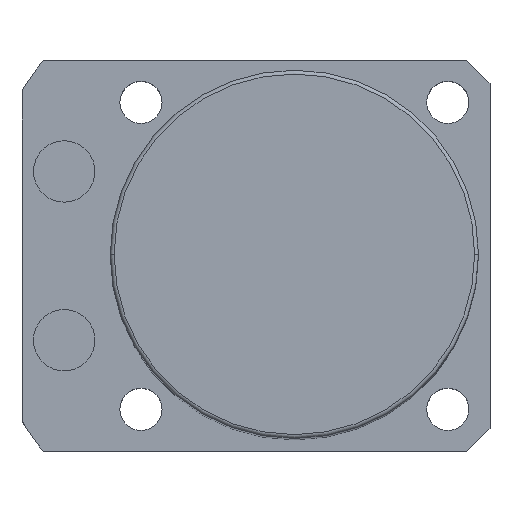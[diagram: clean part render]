
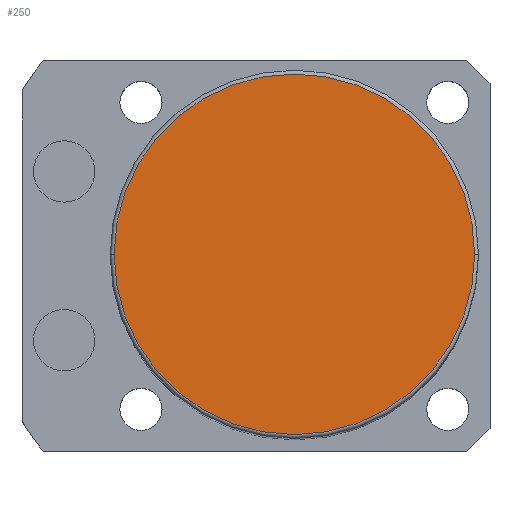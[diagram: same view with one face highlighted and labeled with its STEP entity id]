
A CAD part, top view. The second image highlights one B-rep face of the part: STEP entity #250.
In plain terms, the highlighted planar face has unit normal (0, 0, 1).
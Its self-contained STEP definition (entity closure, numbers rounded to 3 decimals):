
#13 = CARTESIAN_POINT ( 'NONE',  ( 0., 0., 126. ) ) ;
#86 = FACE_OUTER_BOUND ( 'NONE', #742, .T. ) ;
#250 = ADVANCED_FACE ( 'NONE', ( #86 ), #1737, .T. ) ;
#406 = VERTEX_POINT ( 'NONE', #847 ) ;
#440 = DIRECTION ( 'NONE',  ( 0., 0., 1. ) ) ;
#588 = AXIS2_PLACEMENT_3D ( 'NONE', #2068, #803, #2694 ) ;
#712 = CARTESIAN_POINT ( 'NONE',  ( -23.5, 0., 126. ) ) ;
#742 = EDGE_LOOP ( 'NONE', ( #861, #2179 ) ) ;
#803 = DIRECTION ( 'NONE',  ( 0., 0., 1. ) ) ;
#847 = CARTESIAN_POINT ( 'NONE',  ( 23.5, 0., 126. ) ) ;
#861 = ORIENTED_EDGE ( 'NONE', *, *, #1506, .T. ) ;
#991 = CIRCLE ( 'NONE', #2576, 23.5 ) ;
#1098 = CARTESIAN_POINT ( 'NONE',  ( 0., 0., 126. ) ) ;
#1306 = DIRECTION ( 'NONE',  ( 1., 0., 0. ) ) ;
#1500 = DIRECTION ( 'NONE',  ( 1., 0., 0. ) ) ;
#1506 = EDGE_CURVE ( 'NONE', #406, #2700, #1515, .T. ) ;
#1515 = CIRCLE ( 'NONE', #588, 23.5 ) ;
#1522 = DIRECTION ( 'NONE',  ( 0., 0., 1. ) ) ;
#1737 = PLANE ( 'NONE',  #2296 ) ;
#2068 = CARTESIAN_POINT ( 'NONE',  ( 0., 0., 126. ) ) ;
#2179 = ORIENTED_EDGE ( 'NONE', *, *, #2531, .T. ) ;
#2296 = AXIS2_PLACEMENT_3D ( 'NONE', #1098, #440, #1306 ) ;
#2531 = EDGE_CURVE ( 'NONE', #2700, #406, #991, .T. ) ;
#2576 = AXIS2_PLACEMENT_3D ( 'NONE', #13, #1522, #1500 ) ;
#2694 = DIRECTION ( 'NONE',  ( 1., 0., 0. ) ) ;
#2700 = VERTEX_POINT ( 'NONE', #712 ) ;
